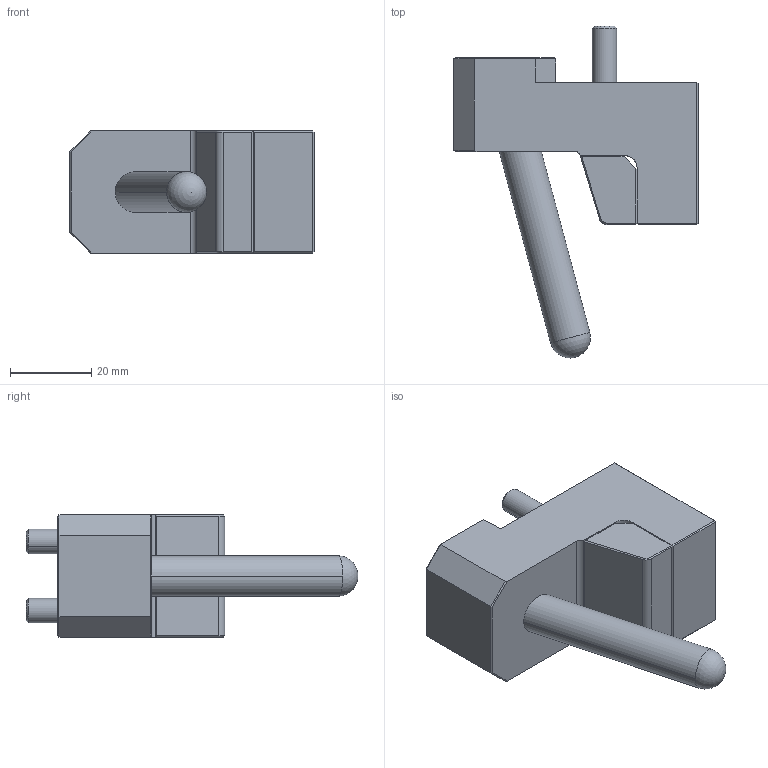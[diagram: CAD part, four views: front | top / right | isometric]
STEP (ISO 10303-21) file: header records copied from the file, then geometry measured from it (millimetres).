
FILE_DESCRIPTION (( 'STEP AP214' ), '1' );
FILE_NAME ('CG603075.STEP', '2013-06-12T09:33:09', ( '' ), ( '' ), 'SwSTEP 2.0', 'SolidWorks 2011', '' );
FILE_SCHEMA (( 'AUTOMOTIVE_DESIGN' ));
Length unit declared in the file: millimetre
Products named in the file (7): SC141730; 3IMAN5X2; 9CG603035; GI010075; CG603035; CG603075; socket head cap screw_din_DIN 912 M6 x 25 --- 25N
Assembly tree (7 placements, depth 3):
  CG603075
    CG603035
      SC141730
      9CG603035
      socket head cap screw_din_DIN 912 M6 x 25 --- 25N  x2
      3IMAN5X2
    GI010075
Bounding box: 60 x 81.57 x 30 mm (x, y, z)
Volume: 50951 mm3; surface area: 17110.6 mm2
Topology: 6 solids, 6 shells, 166 faces, 378 edges, 224 vertices
Faces by surface type: plane 97, cylinder 42, cone 12, torus 12, bspline 2, sphere 1
Entity records: 4298 total; most frequent: CARTESIAN_POINT 803, DIRECTION 699, ORIENTED_EDGE 626, EDGE_CURVE 313, AXIS2_PLACEMENT_3D 249, VECTOR 201, LINE 201, VERTEX_POINT 189
